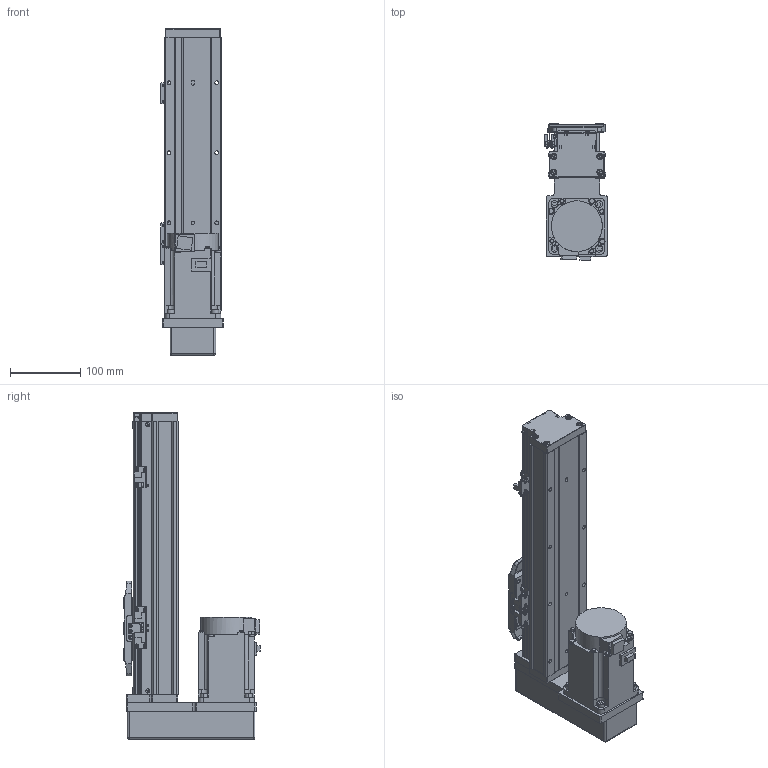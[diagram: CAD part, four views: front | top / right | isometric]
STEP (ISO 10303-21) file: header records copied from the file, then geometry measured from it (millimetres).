
FILE_DESCRIPTION (( 'STEP AP203' ), '1' );
FILE_NAME ('GTH8-200-BM-M75-C4.step', '2023-02-14T02:27:43', ( '微软用户' ), ( '微软中国' ), 'SwSTEP 2.0', 'SolidWorks 2020', '' );
FILE_SCHEMA (( 'CONFIG_CONTROL_DESIGN' ));
Length unit declared in the file: millimetre
Products named in the file (18): GTH80-022; BTH-M3X5X6; GBT 70.1-M3℅6; CTHA86-015-3_CTHA86-015-4; GBT 70.1-M4×16; CTHA86-035; GTH80-004; GTH80-028; hg-kn73j_-s100; GTH80-006; GTH50-024; GTH8-200-BM-M75-C4; GTH80-013; GTH50-023; GTH80-001_200; GBT 70.3-M3℅6; GBT96.1-2002 3×0.8; GTH80-003
Assembly tree (57 placements, depth 2):
  GTH8-200-BM-M75-C4
    GTH80-001_200
    GTH80-003
    GTH80-004
    GTH80-006
    GTH80-013
    GBT 70.3-M3℅6  x4
    GTH80-022
    GBT 70.1-M3℅6  x14
    GBT 70.1-M4×16  x8
    GTH80-028  x2
    GTH50-024  x3
    GTH50-023  x3
    GBT96.1-2002 3×0.8  x6
    BTH-M3X5X6  x8
    CTHA86-015-3_CTHA86-015-4
    CTHA86-035
    hg-kn73j_-s100
Bounding box: 89.4 x 195.3 x 466 mm (x, y, z)
Volume: 3237367.7 mm3; surface area: 371371 mm2
Topology: 59 solids, 59 shells, 2179 faces, 5046 edges, 3088 vertices
Faces by surface type: plane 1153, cylinder 611, cone 243, torus 158, sphere 12, bspline 2
Entity records: 38996 total; most frequent: CARTESIAN_POINT 6551, DIRECTION 6417, ORIENTED_EDGE 5902, EDGE_CURVE 2951, AXIS2_PLACEMENT_3D 2254, VECTOR 1909, LINE 1909, VERTEX_POINT 1863
